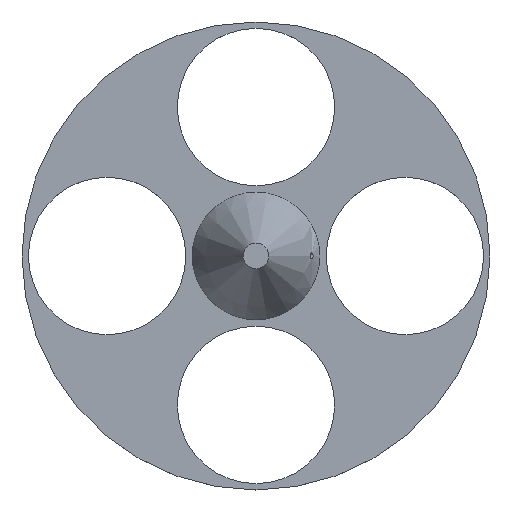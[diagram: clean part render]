
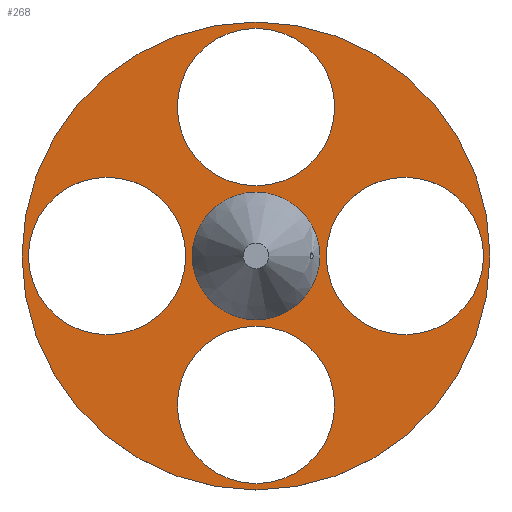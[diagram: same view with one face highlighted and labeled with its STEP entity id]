
A CAD part, top view. The second image highlights one B-rep face of the part: STEP entity #268.
In plain terms, the highlighted planar face has unit normal (0, 0, 1).
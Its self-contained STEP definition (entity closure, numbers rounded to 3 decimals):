
#24 = VERTEX_POINT('',#25);
#25 = CARTESIAN_POINT('',(110.,0.,6.));
#32 = CYLINDRICAL_SURFACE('',#33,110.);
#33 = AXIS2_PLACEMENT_3D('',#34,#35,#36);
#34 = CARTESIAN_POINT('',(0.,0.,0.));
#35 = DIRECTION('',(-0.,-0.,-1.));
#36 = DIRECTION('',(1.,0.,0.));
#51 = EDGE_CURVE('',#24,#24,#52,.T.);
#52 = SURFACE_CURVE('',#53,(#58,#65),.PCURVE_S1.);
#53 = CIRCLE('',#54,110.);
#54 = AXIS2_PLACEMENT_3D('',#55,#56,#57);
#55 = CARTESIAN_POINT('',(0.,0.,6.));
#56 = DIRECTION('',(0.,0.,1.));
#57 = DIRECTION('',(1.,0.,0.));
#58 = PCURVE('',#32,#59);
#59 = DEFINITIONAL_REPRESENTATION('',(#60),#64);
#60 = LINE('',#61,#62);
#61 = CARTESIAN_POINT('',(-0.,-6.));
#62 = VECTOR('',#63,1.);
#63 = DIRECTION('',(-1.,0.));
#64 = ( GEOMETRIC_REPRESENTATION_CONTEXT(2) 
PARAMETRIC_REPRESENTATION_CONTEXT() REPRESENTATION_CONTEXT('2D SPACE',''
  ) );
#65 = PCURVE('',#66,#71);
#66 = PLANE('',#67);
#67 = AXIS2_PLACEMENT_3D('',#68,#69,#70);
#68 = CARTESIAN_POINT('',(0.,0.,6.));
#69 = DIRECTION('',(0.,0.,1.));
#70 = DIRECTION('',(1.,0.,-0.));
#71 = DEFINITIONAL_REPRESENTATION('',(#72),#76);
#72 = CIRCLE('',#73,110.);
#73 = AXIS2_PLACEMENT_2D('',#74,#75);
#74 = CARTESIAN_POINT('',(0.,0.));
#75 = DIRECTION('',(1.,0.));
#76 = ( GEOMETRIC_REPRESENTATION_CONTEXT(2) 
PARAMETRIC_REPRESENTATION_CONTEXT() REPRESENTATION_CONTEXT('2D SPACE',''
  ) );
#129 = CYLINDRICAL_SURFACE('',#130,37.);
#130 = AXIS2_PLACEMENT_3D('',#131,#132,#133);
#131 = CARTESIAN_POINT('',(0.,-70.,0.));
#132 = DIRECTION('',(-0.,-0.,-1.));
#133 = DIRECTION('',(1.,0.,0.));
#195 = CYLINDRICAL_SURFACE('',#196,37.);
#196 = AXIS2_PLACEMENT_3D('',#197,#198,#199);
#197 = CARTESIAN_POINT('',(70.,0.,0.));
#198 = DIRECTION('',(-0.,-0.,-1.));
#199 = DIRECTION('',(1.,0.,0.));
#226 = CYLINDRICAL_SURFACE('',#227,37.);
#227 = AXIS2_PLACEMENT_3D('',#228,#229,#230);
#228 = CARTESIAN_POINT('',(-70.,0.,0.));
#229 = DIRECTION('',(-0.,-0.,-1.));
#230 = DIRECTION('',(1.,0.,0.));
#257 = CYLINDRICAL_SURFACE('',#258,37.);
#258 = AXIS2_PLACEMENT_3D('',#259,#260,#261);
#259 = CARTESIAN_POINT('',(0.,70.,0.));
#260 = DIRECTION('',(-0.,-0.,-1.));
#261 = DIRECTION('',(1.,0.,0.));
#268 = ADVANCED_FACE('',(#269,#272,#298,#329,#355,#381),#66,.T.);
#269 = FACE_BOUND('',#270,.T.);
#270 = EDGE_LOOP('',(#271));
#271 = ORIENTED_EDGE('',*,*,#51,.T.);
#272 = FACE_BOUND('',#273,.T.);
#273 = EDGE_LOOP('',(#274));
#274 = ORIENTED_EDGE('',*,*,#275,.F.);
#275 = EDGE_CURVE('',#276,#276,#278,.T.);
#276 = VERTEX_POINT('',#277);
#277 = CARTESIAN_POINT('',(37.,-70.,6.));
#278 = SURFACE_CURVE('',#279,(#284,#291),.PCURVE_S1.);
#279 = CIRCLE('',#280,37.);
#280 = AXIS2_PLACEMENT_3D('',#281,#282,#283);
#281 = CARTESIAN_POINT('',(0.,-70.,6.));
#282 = DIRECTION('',(0.,0.,1.));
#283 = DIRECTION('',(1.,0.,0.));
#284 = PCURVE('',#66,#285);
#285 = DEFINITIONAL_REPRESENTATION('',(#286),#290);
#286 = CIRCLE('',#287,37.);
#287 = AXIS2_PLACEMENT_2D('',#288,#289);
#288 = CARTESIAN_POINT('',(0.,-70.));
#289 = DIRECTION('',(1.,0.));
#290 = ( GEOMETRIC_REPRESENTATION_CONTEXT(2) 
PARAMETRIC_REPRESENTATION_CONTEXT() REPRESENTATION_CONTEXT('2D SPACE',''
  ) );
#291 = PCURVE('',#129,#292);
#292 = DEFINITIONAL_REPRESENTATION('',(#293),#297);
#293 = LINE('',#294,#295);
#294 = CARTESIAN_POINT('',(-0.,-6.));
#295 = VECTOR('',#296,1.);
#296 = DIRECTION('',(-1.,0.));
#297 = ( GEOMETRIC_REPRESENTATION_CONTEXT(2) 
PARAMETRIC_REPRESENTATION_CONTEXT() REPRESENTATION_CONTEXT('2D SPACE',''
  ) );
#298 = FACE_BOUND('',#299,.T.);
#299 = EDGE_LOOP('',(#300));
#300 = ORIENTED_EDGE('',*,*,#301,.F.);
#301 = EDGE_CURVE('',#302,#302,#304,.T.);
#302 = VERTEX_POINT('',#303);
#303 = CARTESIAN_POINT('',(30.,0.,6.));
#304 = SURFACE_CURVE('',#305,(#310,#317),.PCURVE_S1.);
#305 = CIRCLE('',#306,30.);
#306 = AXIS2_PLACEMENT_3D('',#307,#308,#309);
#307 = CARTESIAN_POINT('',(0.,0.,6.));
#308 = DIRECTION('',(0.,0.,1.));
#309 = DIRECTION('',(1.,0.,0.));
#310 = PCURVE('',#66,#311);
#311 = DEFINITIONAL_REPRESENTATION('',(#312),#316);
#312 = CIRCLE('',#313,30.);
#313 = AXIS2_PLACEMENT_2D('',#314,#315);
#314 = CARTESIAN_POINT('',(0.,0.));
#315 = DIRECTION('',(1.,0.));
#316 = ( GEOMETRIC_REPRESENTATION_CONTEXT(2) 
PARAMETRIC_REPRESENTATION_CONTEXT() REPRESENTATION_CONTEXT('2D SPACE',''
  ) );
#317 = PCURVE('',#318,#323);
#318 = CONICAL_SURFACE('',#319,30.,0.448);
#319 = AXIS2_PLACEMENT_3D('',#320,#321,#322);
#320 = CARTESIAN_POINT('',(0.,0.,6.));
#321 = DIRECTION('',(-0.,-0.,-1.));
#322 = DIRECTION('',(1.,0.,0.));
#323 = DEFINITIONAL_REPRESENTATION('',(#324),#328);
#324 = LINE('',#325,#326);
#325 = CARTESIAN_POINT('',(-0.,-0.));
#326 = VECTOR('',#327,1.);
#327 = DIRECTION('',(-1.,-0.));
#328 = ( GEOMETRIC_REPRESENTATION_CONTEXT(2) 
PARAMETRIC_REPRESENTATION_CONTEXT() REPRESENTATION_CONTEXT('2D SPACE',''
  ) );
#329 = FACE_BOUND('',#330,.T.);
#330 = EDGE_LOOP('',(#331));
#331 = ORIENTED_EDGE('',*,*,#332,.F.);
#332 = EDGE_CURVE('',#333,#333,#335,.T.);
#333 = VERTEX_POINT('',#334);
#334 = CARTESIAN_POINT('',(107.,0.,6.));
#335 = SURFACE_CURVE('',#336,(#341,#348),.PCURVE_S1.);
#336 = CIRCLE('',#337,37.);
#337 = AXIS2_PLACEMENT_3D('',#338,#339,#340);
#338 = CARTESIAN_POINT('',(70.,0.,6.));
#339 = DIRECTION('',(0.,0.,1.));
#340 = DIRECTION('',(1.,0.,0.));
#341 = PCURVE('',#66,#342);
#342 = DEFINITIONAL_REPRESENTATION('',(#343),#347);
#343 = CIRCLE('',#344,37.);
#344 = AXIS2_PLACEMENT_2D('',#345,#346);
#345 = CARTESIAN_POINT('',(70.,0.));
#346 = DIRECTION('',(1.,0.));
#347 = ( GEOMETRIC_REPRESENTATION_CONTEXT(2) 
PARAMETRIC_REPRESENTATION_CONTEXT() REPRESENTATION_CONTEXT('2D SPACE',''
  ) );
#348 = PCURVE('',#195,#349);
#349 = DEFINITIONAL_REPRESENTATION('',(#350),#354);
#350 = LINE('',#351,#352);
#351 = CARTESIAN_POINT('',(-0.,-6.));
#352 = VECTOR('',#353,1.);
#353 = DIRECTION('',(-1.,0.));
#354 = ( GEOMETRIC_REPRESENTATION_CONTEXT(2) 
PARAMETRIC_REPRESENTATION_CONTEXT() REPRESENTATION_CONTEXT('2D SPACE',''
  ) );
#355 = FACE_BOUND('',#356,.T.);
#356 = EDGE_LOOP('',(#357));
#357 = ORIENTED_EDGE('',*,*,#358,.F.);
#358 = EDGE_CURVE('',#359,#359,#361,.T.);
#359 = VERTEX_POINT('',#360);
#360 = CARTESIAN_POINT('',(-33.,0.,6.));
#361 = SURFACE_CURVE('',#362,(#367,#374),.PCURVE_S1.);
#362 = CIRCLE('',#363,37.);
#363 = AXIS2_PLACEMENT_3D('',#364,#365,#366);
#364 = CARTESIAN_POINT('',(-70.,0.,6.));
#365 = DIRECTION('',(0.,0.,1.));
#366 = DIRECTION('',(1.,0.,0.));
#367 = PCURVE('',#66,#368);
#368 = DEFINITIONAL_REPRESENTATION('',(#369),#373);
#369 = CIRCLE('',#370,37.);
#370 = AXIS2_PLACEMENT_2D('',#371,#372);
#371 = CARTESIAN_POINT('',(-70.,0.));
#372 = DIRECTION('',(1.,0.));
#373 = ( GEOMETRIC_REPRESENTATION_CONTEXT(2) 
PARAMETRIC_REPRESENTATION_CONTEXT() REPRESENTATION_CONTEXT('2D SPACE',''
  ) );
#374 = PCURVE('',#226,#375);
#375 = DEFINITIONAL_REPRESENTATION('',(#376),#380);
#376 = LINE('',#377,#378);
#377 = CARTESIAN_POINT('',(-0.,-6.));
#378 = VECTOR('',#379,1.);
#379 = DIRECTION('',(-1.,0.));
#380 = ( GEOMETRIC_REPRESENTATION_CONTEXT(2) 
PARAMETRIC_REPRESENTATION_CONTEXT() REPRESENTATION_CONTEXT('2D SPACE',''
  ) );
#381 = FACE_BOUND('',#382,.T.);
#382 = EDGE_LOOP('',(#383));
#383 = ORIENTED_EDGE('',*,*,#384,.F.);
#384 = EDGE_CURVE('',#385,#385,#387,.T.);
#385 = VERTEX_POINT('',#386);
#386 = CARTESIAN_POINT('',(37.,70.,6.));
#387 = SURFACE_CURVE('',#388,(#393,#400),.PCURVE_S1.);
#388 = CIRCLE('',#389,37.);
#389 = AXIS2_PLACEMENT_3D('',#390,#391,#392);
#390 = CARTESIAN_POINT('',(0.,70.,6.));
#391 = DIRECTION('',(0.,0.,1.));
#392 = DIRECTION('',(1.,0.,0.));
#393 = PCURVE('',#66,#394);
#394 = DEFINITIONAL_REPRESENTATION('',(#395),#399);
#395 = CIRCLE('',#396,37.);
#396 = AXIS2_PLACEMENT_2D('',#397,#398);
#397 = CARTESIAN_POINT('',(0.,70.));
#398 = DIRECTION('',(1.,0.));
#399 = ( GEOMETRIC_REPRESENTATION_CONTEXT(2) 
PARAMETRIC_REPRESENTATION_CONTEXT() REPRESENTATION_CONTEXT('2D SPACE',''
  ) );
#400 = PCURVE('',#257,#401);
#401 = DEFINITIONAL_REPRESENTATION('',(#402),#406);
#402 = LINE('',#403,#404);
#403 = CARTESIAN_POINT('',(-0.,-6.));
#404 = VECTOR('',#405,1.);
#405 = DIRECTION('',(-1.,0.));
#406 = ( GEOMETRIC_REPRESENTATION_CONTEXT(2) 
PARAMETRIC_REPRESENTATION_CONTEXT() REPRESENTATION_CONTEXT('2D SPACE',''
  ) );
